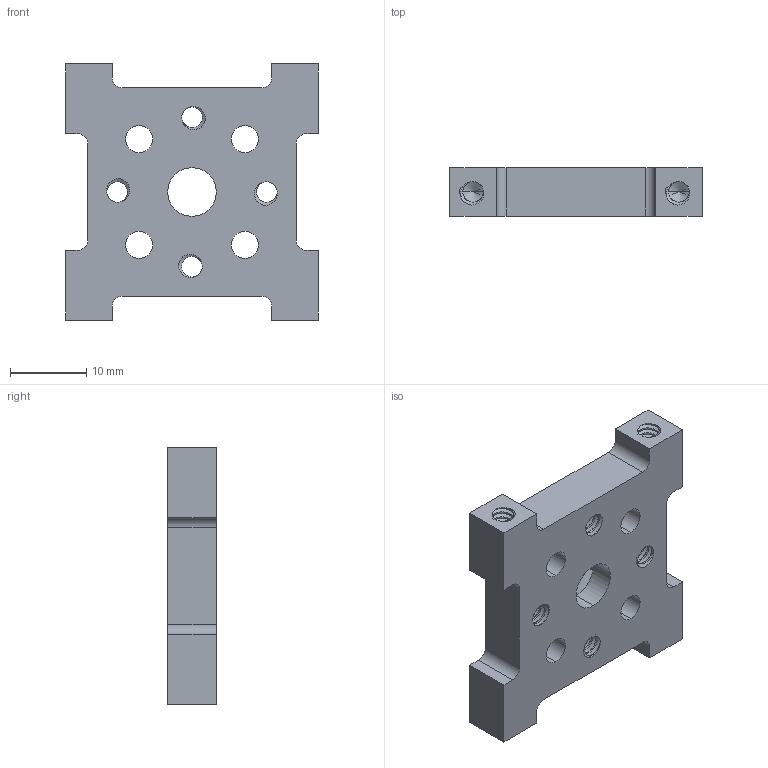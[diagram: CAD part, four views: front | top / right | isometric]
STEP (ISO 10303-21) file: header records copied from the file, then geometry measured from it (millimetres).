
FILE_DESCRIPTION (( 'STEP AP203' ), '1' );
FILE_NAME ('545452.STEP', '2016-08-17T15:46:36', ( '' ), ( '' ), 'SwSTEP 2.0', 'SolidWorks 2014', '' );
FILE_SCHEMA (( 'CONFIG_CONTROL_DESIGN' ));
Length unit declared in the file: inch
Products named in the file (1): 545452
Bounding box: 33.02 x 6.35 x 33.53 mm (x, y, z)
Volume: 4563.5 mm3; surface area: 3851.1 mm2
Topology: 1 solids, 1 shells, 361 faces, 1066 edges, 704 vertices
Faces by surface type: cylinder 304, plane 29, bspline 16, cone 12
Entity records: 22183 total; most frequent: CARTESIAN_POINT 14200, ORIENTED_EDGE 2116, DIRECTION 1242, EDGE_CURVE 1058, VERTEX_POINT 704, AXIS2_PLACEMENT_3D 432, EDGE_LOOP 384, LINE 378
